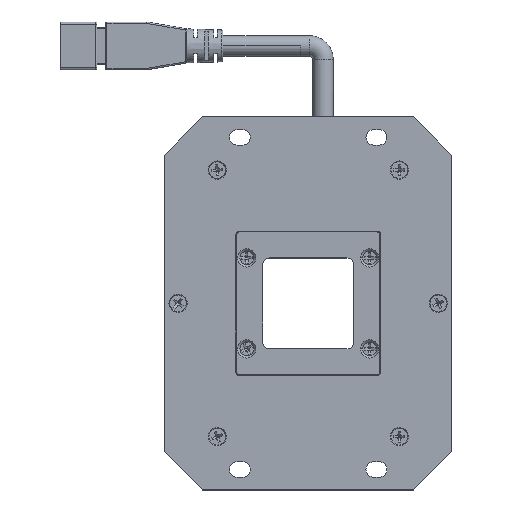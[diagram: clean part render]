
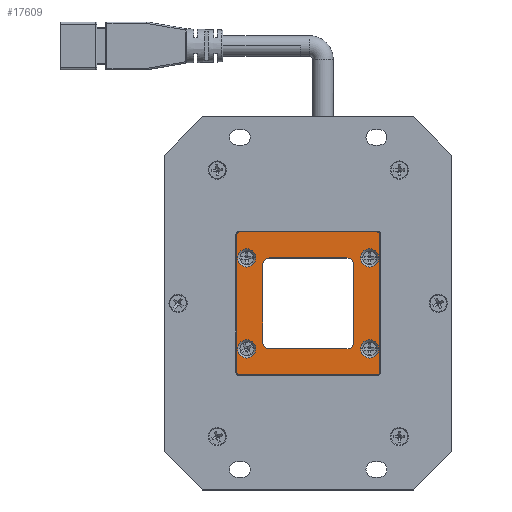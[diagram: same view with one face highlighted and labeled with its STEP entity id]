
A CAD part, top view. The second image highlights one B-rep face of the part: STEP entity #17609.
In plain terms, the highlighted planar face has unit normal (0, 0, 1).
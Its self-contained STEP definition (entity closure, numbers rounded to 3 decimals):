
#4215=DIRECTION('',(0.,1.,0.));
#4216=VECTOR('',#4215,17.);
#4217=CARTESIAN_POINT('',(10.,-8.5,4.));
#4218=LINE('',#4217,#4216);
#4227=DIRECTION('',(1.,0.,0.));
#4228=VECTOR('',#4227,17.);
#4229=CARTESIAN_POINT('',(-8.5,-10.,4.));
#4230=LINE('',#4229,#4228);
#4247=DIRECTION('',(0.,-1.,0.));
#4248=VECTOR('',#4247,17.);
#4249=CARTESIAN_POINT('',(-10.,8.5,4.));
#4250=LINE('',#4249,#4248);
#4263=DIRECTION('',(-1.,0.,0.));
#4264=VECTOR('',#4263,17.);
#4265=CARTESIAN_POINT('',(8.5,10.,4.));
#4266=LINE('',#4265,#4264);
#4267=CARTESIAN_POINT('',(13.5,-10.,4.));
#4268=DIRECTION('',(0.,0.,-1.));
#4269=DIRECTION('',(1.,0.,0.));
#4270=AXIS2_PLACEMENT_3D('',#4267,#4268,#4269);
#4272=CARTESIAN_POINT('',(13.5,-10.,4.));
#4273=DIRECTION('',(0.,0.,-1.));
#4274=DIRECTION('',(-1.,0.,0.));
#4275=AXIS2_PLACEMENT_3D('',#4272,#4273,#4274);
#4277=CARTESIAN_POINT('',(13.5,10.,4.));
#4278=DIRECTION('',(0.,0.,-1.));
#4279=DIRECTION('',(-1.,0.,0.));
#4280=AXIS2_PLACEMENT_3D('',#4277,#4278,#4279);
#4282=CARTESIAN_POINT('',(13.5,10.,4.));
#4283=DIRECTION('',(0.,0.,-1.));
#4284=DIRECTION('',(1.,0.,0.));
#4285=AXIS2_PLACEMENT_3D('',#4282,#4283,#4284);
#4287=CARTESIAN_POINT('',(-13.5,-10.,4.));
#4288=DIRECTION('',(0.,0.,-1.));
#4289=DIRECTION('',(1.,0.,0.));
#4290=AXIS2_PLACEMENT_3D('',#4287,#4288,#4289);
#4292=CARTESIAN_POINT('',(-13.5,-10.,4.));
#4293=DIRECTION('',(0.,0.,-1.));
#4294=DIRECTION('',(-1.,0.,0.));
#4295=AXIS2_PLACEMENT_3D('',#4292,#4293,#4294);
#4297=CARTESIAN_POINT('',(-13.5,10.,4.));
#4298=DIRECTION('',(0.,0.,-1.));
#4299=DIRECTION('',(-1.,0.,0.));
#4300=AXIS2_PLACEMENT_3D('',#4297,#4298,#4299);
#4302=CARTESIAN_POINT('',(-13.5,10.,4.));
#4303=DIRECTION('',(0.,0.,-1.));
#4304=DIRECTION('',(1.,0.,0.));
#4305=AXIS2_PLACEMENT_3D('',#4302,#4303,#4304);
#4307=CARTESIAN_POINT('',(8.5,-8.5,4.));
#4308=DIRECTION('',(0.,0.,-1.));
#4309=DIRECTION('',(1.,0.,0.));
#4310=AXIS2_PLACEMENT_3D('',#4307,#4308,#4309);
#4312=CARTESIAN_POINT('',(8.5,8.5,4.));
#4313=DIRECTION('',(0.,0.,-1.));
#4314=DIRECTION('',(0.,1.,0.));
#4315=AXIS2_PLACEMENT_3D('',#4312,#4313,#4314);
#4317=CARTESIAN_POINT('',(-8.5,8.5,4.));
#4318=DIRECTION('',(0.,0.,-1.));
#4319=DIRECTION('',(-1.,0.,0.));
#4320=AXIS2_PLACEMENT_3D('',#4317,#4318,#4319);
#4322=CARTESIAN_POINT('',(-8.5,-8.5,4.));
#4323=DIRECTION('',(0.,0.,-1.));
#4324=DIRECTION('',(0.,-1.,0.));
#4325=AXIS2_PLACEMENT_3D('',#4322,#4323,#4324);
#4327=DIRECTION('',(0.,1.,0.));
#4328=VECTOR('',#4327,30.4);
#4329=CARTESIAN_POINT('',(15.7,-15.2,4.));
#4330=LINE('',#4329,#4328);
#4331=CARTESIAN_POINT('',(15.2,-15.2,4.));
#4332=DIRECTION('',(0.,0.,1.));
#4333=DIRECTION('',(0.,-1.,0.));
#4334=AXIS2_PLACEMENT_3D('',#4331,#4332,#4333);
#4336=DIRECTION('',(1.,0.,0.));
#4337=VECTOR('',#4336,30.4);
#4338=CARTESIAN_POINT('',(-15.2,-15.7,4.));
#4339=LINE('',#4338,#4337);
#4340=CARTESIAN_POINT('',(-15.2,-15.2,4.));
#4341=DIRECTION('',(0.,0.,1.));
#4342=DIRECTION('',(-1.,0.,0.));
#4343=AXIS2_PLACEMENT_3D('',#4340,#4341,#4342);
#4345=DIRECTION('',(0.,-1.,0.));
#4346=VECTOR('',#4345,30.4);
#4347=CARTESIAN_POINT('',(-15.7,15.2,4.));
#4348=LINE('',#4347,#4346);
#4349=CARTESIAN_POINT('',(-15.2,15.2,4.));
#4350=DIRECTION('',(0.,0.,1.));
#4351=DIRECTION('',(0.,1.,0.));
#4352=AXIS2_PLACEMENT_3D('',#4349,#4350,#4351);
#4354=DIRECTION('',(-1.,0.,0.));
#4355=VECTOR('',#4354,30.4);
#4356=CARTESIAN_POINT('',(15.2,15.7,4.));
#4357=LINE('',#4356,#4355);
#4358=CARTESIAN_POINT('',(15.2,15.2,4.));
#4359=DIRECTION('',(0.,0.,1.));
#4360=DIRECTION('',(1.,0.,0.));
#4361=AXIS2_PLACEMENT_3D('',#4358,#4359,#4360);
#9621=CARTESIAN_POINT('',(15.2,-15.7,4.));
#9622=CARTESIAN_POINT('',(15.7,-15.2,4.));
#9623=VERTEX_POINT('',#9621);
#9624=VERTEX_POINT('',#9622);
#9625=CARTESIAN_POINT('',(-15.2,-15.7,4.));
#9626=VERTEX_POINT('',#9625);
#9627=CARTESIAN_POINT('',(-15.7,-15.2,4.));
#9628=VERTEX_POINT('',#9627);
#9629=CARTESIAN_POINT('',(-15.7,15.2,4.));
#9630=VERTEX_POINT('',#9629);
#9631=CARTESIAN_POINT('',(-15.2,15.7,4.));
#9632=VERTEX_POINT('',#9631);
#9633=CARTESIAN_POINT('',(15.2,15.7,4.));
#9634=VERTEX_POINT('',#9633);
#9635=CARTESIAN_POINT('',(15.7,15.2,4.));
#9636=VERTEX_POINT('',#9635);
#9637=CARTESIAN_POINT('',(10.,-8.5,4.));
#9638=CARTESIAN_POINT('',(10.,8.5,4.));
#9639=VERTEX_POINT('',#9637);
#9640=VERTEX_POINT('',#9638);
#9641=CARTESIAN_POINT('',(8.5,10.,4.));
#9642=VERTEX_POINT('',#9641);
#9643=CARTESIAN_POINT('',(-8.5,10.,4.));
#9644=VERTEX_POINT('',#9643);
#9645=CARTESIAN_POINT('',(-10.,8.5,4.));
#9646=VERTEX_POINT('',#9645);
#9647=CARTESIAN_POINT('',(-10.,-8.5,4.));
#9648=VERTEX_POINT('',#9647);
#9649=CARTESIAN_POINT('',(-8.5,-10.,4.));
#9650=VERTEX_POINT('',#9649);
#9651=CARTESIAN_POINT('',(8.5,-10.,4.));
#9652=VERTEX_POINT('',#9651);
#9653=CARTESIAN_POINT('',(-11.5,10.,4.));
#9654=CARTESIAN_POINT('',(-15.5,10.,4.));
#9655=VERTEX_POINT('',#9653);
#9656=VERTEX_POINT('',#9654);
#9657=CARTESIAN_POINT('',(-15.5,-10.,4.));
#9658=CARTESIAN_POINT('',(-11.5,-10.,4.));
#9659=VERTEX_POINT('',#9657);
#9660=VERTEX_POINT('',#9658);
#9661=CARTESIAN_POINT('',(15.5,10.,4.));
#9662=CARTESIAN_POINT('',(11.5,10.,4.));
#9663=VERTEX_POINT('',#9661);
#9664=VERTEX_POINT('',#9662);
#9665=CARTESIAN_POINT('',(11.5,-10.,4.));
#9666=CARTESIAN_POINT('',(15.5,-10.,4.));
#9667=VERTEX_POINT('',#9665);
#9668=VERTEX_POINT('',#9666);
#17552=CARTESIAN_POINT('',(0.,0.,4.));
#17553=DIRECTION('',(0.,0.,1.));
#17554=DIRECTION('',(1.,0.,0.));
#17555=AXIS2_PLACEMENT_3D('',#17552,#17553,#17554);
#17556=PLANE('',#17555);
#17558=ORIENTED_EDGE('',*,*,#17557,.F.);
#17560=ORIENTED_EDGE('',*,*,#17559,.F.);
#17562=ORIENTED_EDGE('',*,*,#17561,.F.);
#17564=ORIENTED_EDGE('',*,*,#17563,.F.);
#17566=ORIENTED_EDGE('',*,*,#17565,.F.);
#17568=ORIENTED_EDGE('',*,*,#17567,.F.);
#17570=ORIENTED_EDGE('',*,*,#17569,.F.);
#17572=ORIENTED_EDGE('',*,*,#17571,.F.);
#17573=EDGE_LOOP('',(#17558,#17560,#17562,#17564,#17566,#17568,#17570,#17572));
#17574=FACE_OUTER_BOUND('',#17573,.F.);
#17576=ORIENTED_EDGE('',*,*,#17575,.F.);
#17578=ORIENTED_EDGE('',*,*,#17577,.F.);
#17579=EDGE_LOOP('',(#17576,#17578));
#17580=FACE_BOUND('',#17579,.F.);
#17582=ORIENTED_EDGE('',*,*,#17581,.F.);
#17584=ORIENTED_EDGE('',*,*,#17583,.F.);
#17585=EDGE_LOOP('',(#17582,#17584));
#17586=FACE_BOUND('',#17585,.F.);
#17588=ORIENTED_EDGE('',*,*,#17587,.F.);
#17590=ORIENTED_EDGE('',*,*,#17589,.F.);
#17591=EDGE_LOOP('',(#17588,#17590));
#17592=FACE_BOUND('',#17591,.F.);
#17593=ORIENTED_EDGE('',*,*,#17478,.F.);
#17594=ORIENTED_EDGE('',*,*,#17464,.T.);
#17595=ORIENTED_EDGE('',*,*,#17450,.F.);
#17596=ORIENTED_EDGE('',*,*,#17547,.T.);
#17597=ORIENTED_EDGE('',*,*,#17534,.F.);
#17598=ORIENTED_EDGE('',*,*,#17520,.T.);
#17599=ORIENTED_EDGE('',*,*,#17506,.F.);
#17600=ORIENTED_EDGE('',*,*,#17492,.T.);
#17601=EDGE_LOOP('',(#17593,#17594,#17595,#17596,#17597,#17598,#17599,#17600));
#17602=FACE_BOUND('',#17601,.F.);
#17604=ORIENTED_EDGE('',*,*,#17603,.F.);
#17606=ORIENTED_EDGE('',*,*,#17605,.F.);
#17607=EDGE_LOOP('',(#17604,#17606));
#17608=FACE_BOUND('',#17607,.F.);
#4271=CIRCLE('',#4270,2.);
#4276=CIRCLE('',#4275,2.);
#4281=CIRCLE('',#4280,2.);
#4286=CIRCLE('',#4285,2.);
#4291=CIRCLE('',#4290,2.);
#4296=CIRCLE('',#4295,2.);
#4301=CIRCLE('',#4300,2.);
#4306=CIRCLE('',#4305,2.);
#4311=CIRCLE('',#4310,1.5);
#4316=CIRCLE('',#4315,1.5);
#4321=CIRCLE('',#4320,1.5);
#4326=CIRCLE('',#4325,1.5);
#4335=CIRCLE('',#4334,0.5);
#4344=CIRCLE('',#4343,0.5);
#4353=CIRCLE('',#4352,0.5);
#4362=CIRCLE('',#4361,0.5);
#17450=EDGE_CURVE('',#9642,#9640,#4316,.T.);
#17464=EDGE_CURVE('',#9639,#9640,#4218,.T.);
#17478=EDGE_CURVE('',#9639,#9652,#4311,.T.);
#17492=EDGE_CURVE('',#9650,#9652,#4230,.T.);
#17506=EDGE_CURVE('',#9650,#9648,#4326,.T.);
#17520=EDGE_CURVE('',#9646,#9648,#4250,.T.);
#17534=EDGE_CURVE('',#9646,#9644,#4321,.T.);
#17547=EDGE_CURVE('',#9642,#9644,#4266,.T.);
#17557=EDGE_CURVE('',#9624,#9636,#4330,.T.);
#17559=EDGE_CURVE('',#9623,#9624,#4335,.T.);
#17561=EDGE_CURVE('',#9626,#9623,#4339,.T.);
#17563=EDGE_CURVE('',#9628,#9626,#4344,.T.);
#17565=EDGE_CURVE('',#9630,#9628,#4348,.T.);
#17567=EDGE_CURVE('',#9632,#9630,#4353,.T.);
#17569=EDGE_CURVE('',#9634,#9632,#4357,.T.);
#17571=EDGE_CURVE('',#9636,#9634,#4362,.T.);
#17575=EDGE_CURVE('',#9664,#9663,#4281,.T.);
#17577=EDGE_CURVE('',#9663,#9664,#4286,.T.);
#17581=EDGE_CURVE('',#9660,#9659,#4291,.T.);
#17583=EDGE_CURVE('',#9659,#9660,#4296,.T.);
#17587=EDGE_CURVE('',#9656,#9655,#4301,.T.);
#17589=EDGE_CURVE('',#9655,#9656,#4306,.T.);
#17603=EDGE_CURVE('',#9668,#9667,#4271,.T.);
#17605=EDGE_CURVE('',#9667,#9668,#4276,.T.);
#17609=ADVANCED_FACE('',(#17574,#17580,#17586,#17592,#17602,#17608),#17556,.T.);
